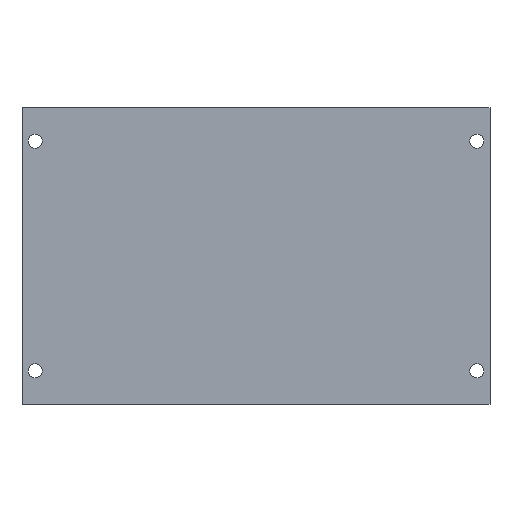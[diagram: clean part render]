
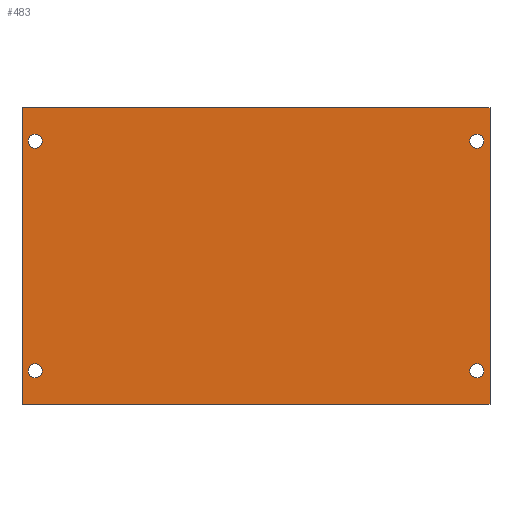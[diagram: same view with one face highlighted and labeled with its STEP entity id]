
A CAD part, front view. The second image highlights one B-rep face of the part: STEP entity #483.
In plain terms, the highlighted planar face has unit normal (0, -1, 0).
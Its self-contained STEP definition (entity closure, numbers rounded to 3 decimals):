
#138=CARTESIAN_POINT('',(99.6,0.0,-60.1));
#139=VERTEX_POINT('',#138);
#140=CARTESIAN_POINT('',(98.,0.0,-60.1));
#141=DIRECTION('',(0.0,1.0,0.0));
#142=DIRECTION('',(-1.0,0.0,0.0));
#143=AXIS2_PLACEMENT_3D('',#140,#141,#142);
#144=CIRCLE('',#143,1.6);
#145=EDGE_CURVE('',#139,#139,#144,.T.);
#166=CARTESIAN_POINT('',(-1.4,0.0,-60.1));
#167=VERTEX_POINT('',#166);
#168=CARTESIAN_POINT('',(-3.,0.0,-60.1));
#169=DIRECTION('',(0.0,1.0,0.0));
#170=DIRECTION('',(-1.0,0.0,0.0));
#171=AXIS2_PLACEMENT_3D('',#168,#169,#170);
#172=CIRCLE('',#171,1.6);
#173=EDGE_CURVE('',#167,#167,#172,.T.);
#186=CARTESIAN_POINT('',(99.6,0.0,-7.6));
#187=VERTEX_POINT('',#186);
#188=CARTESIAN_POINT('',(98.,0.0,-7.6));
#189=DIRECTION('',(0.0,1.0,0.0));
#190=DIRECTION('',(-1.0,0.0,0.0));
#191=AXIS2_PLACEMENT_3D('',#188,#189,#190);
#192=CIRCLE('',#191,1.6);
#193=EDGE_CURVE('',#187,#187,#192,.T.);
#214=CARTESIAN_POINT('',(-1.4,0.0,-7.6));
#215=VERTEX_POINT('',#214);
#216=CARTESIAN_POINT('',(-3.,0.0,-7.6));
#217=DIRECTION('',(0.0,1.0,0.0));
#218=DIRECTION('',(-1.0,0.0,0.0));
#219=AXIS2_PLACEMENT_3D('',#216,#217,#218);
#220=CIRCLE('',#219,1.6);
#221=EDGE_CURVE('',#215,#215,#220,.T.);
#231=CARTESIAN_POINT('',(-6.,0.0,-67.7));
#232=VERTEX_POINT('',#231);
#233=CARTESIAN_POINT('',(-6.,0.0,0.));
#234=VERTEX_POINT('',#233);
#235=CARTESIAN_POINT('',(-6.,0.0,-67.7));
#236=DIRECTION('',(0.0,0.0,1.0));
#237=VECTOR('',#236,67.7);
#238=LINE('',#235,#237);
#239=EDGE_CURVE('',#232,#234,#238,.T.);
#271=CARTESIAN_POINT('',(101.,0.0,0.));
#272=VERTEX_POINT('',#271);
#273=CARTESIAN_POINT('',(101.,0.0,-67.7));
#274=VERTEX_POINT('',#273);
#275=CARTESIAN_POINT('',(101.,0.0,0.));
#276=DIRECTION('',(0.0,0.0,-1.0));
#277=VECTOR('',#276,67.7);
#278=LINE('',#275,#277);
#279=EDGE_CURVE('',#272,#274,#278,.T.);
#387=CARTESIAN_POINT('',(-6.,0.0,0.));
#388=DIRECTION('',(1.0,0.0,0.0));
#389=VECTOR('',#388,107.);
#390=LINE('',#387,#389);
#391=EDGE_CURVE('',#234,#272,#390,.T.);
#420=CARTESIAN_POINT('',(101.,0.0,-67.7));
#421=DIRECTION('',(-1.0,0.0,0.0));
#422=VECTOR('',#421,107.);
#423=LINE('',#420,#422);
#424=EDGE_CURVE('',#274,#232,#423,.T.);
#460=CARTESIAN_POINT('',(47.5,0.0,-33.85));
#461=DIRECTION('',(0.0,-1.0,0.0));
#462=DIRECTION('',(0.0,0.0,-1.0));
#463=AXIS2_PLACEMENT_3D('',#460,#461,#462);
#464=PLANE('',#463);
#465=ORIENTED_EDGE('',*,*,#391,.F.);
#466=ORIENTED_EDGE('',*,*,#239,.F.);
#467=ORIENTED_EDGE('',*,*,#424,.F.);
#468=ORIENTED_EDGE('',*,*,#279,.F.);
#469=EDGE_LOOP('',(#465,#466,#467,#468));
#470=FACE_OUTER_BOUND('',#469,.T.);
#471=ORIENTED_EDGE('',*,*,#173,.T.);
#472=EDGE_LOOP('',(#471));
#473=FACE_BOUND('',#472,.T.);
#474=ORIENTED_EDGE('',*,*,#221,.T.);
#475=EDGE_LOOP('',(#474));
#476=FACE_BOUND('',#475,.T.);
#477=ORIENTED_EDGE('',*,*,#193,.T.);
#478=EDGE_LOOP('',(#477));
#479=FACE_BOUND('',#478,.T.);
#480=ORIENTED_EDGE('',*,*,#145,.T.);
#481=EDGE_LOOP('',(#480));
#482=FACE_BOUND('',#481,.T.);
#483=ADVANCED_FACE('',(#470,#473,#476,#479,#482),#464,.T.);
